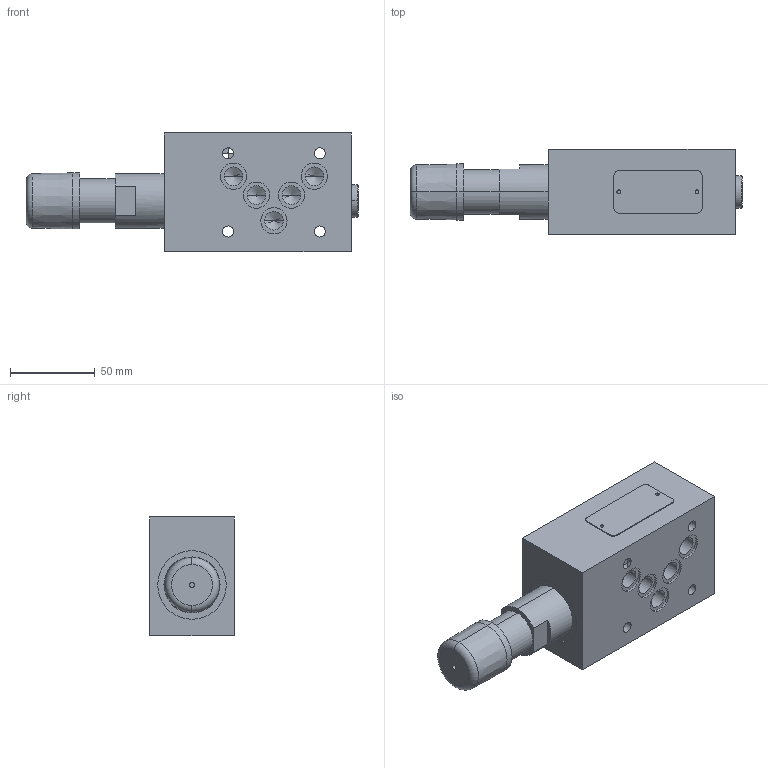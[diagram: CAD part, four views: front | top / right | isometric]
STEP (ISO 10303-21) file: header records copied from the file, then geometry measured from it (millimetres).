
FILE_DESCRIPTION((''),'2;1');
FILE_NAME('VRN2_10_MP_6S_245092_ASM','2018-10-16T',('l.soukupova'),(''),'PRO/ENGINEER BY PARAMETRIC TECHNOLOGY CORPORATION, 2015440','PRO/ENGINEER BY PARAMETRIC TECHNOLOGY CORPORATION, 2015440','');
FILE_SCHEMA(('AUTOMOTIVE_DESIGN { 1 0 10303 214 1 1 1 1 }'));
Length unit declared in the file: millimetre
Products named in the file (5): IMP_VRN2_10_MP; VRN2_10_S_S; VSTI_1_4_ED_154763; RD_LABEL_25X52; VRN2_10_MP_6S_245092_ASM
Assembly tree (4 placements, depth 2):
  VRN2_10_MP_6S_245092_ASM
    IMP_VRN2_10_MP
    VRN2_10_S_S
    VSTI_1_4_ED_154763
    RD_LABEL_25X52
Bounding box: 195.5 x 50 x 70.5 mm (x, y, z)
Volume: 402268.3 mm3; surface area: 74245 mm2
Topology: 4 solids, 10 shells, 252 faces, 692 edges, 510 vertices
Faces by surface type: cylinder 116, plane 66, cone 60, torus 10
Entity records: 11521 total; most frequent: DIRECTION 1574, CARTESIAN_POINT 1571, ORIENTED_EDGE 1136, PRESENTATION_STYLE_ASSIGNMENT 795, STYLED_ITEM 725, CURVE_STYLE 716, AXIS2_PLACEMENT_3D 623, EDGE_CURVE 580
